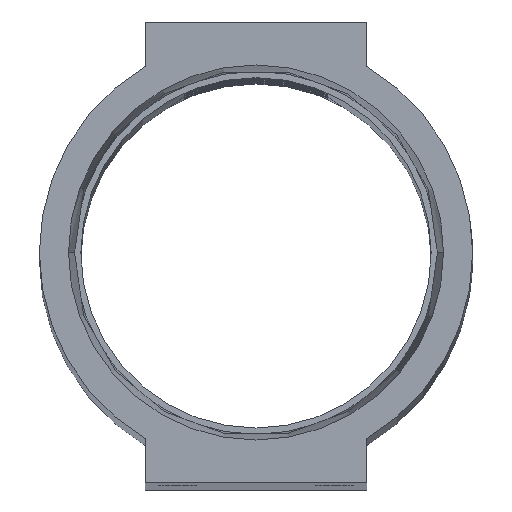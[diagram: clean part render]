
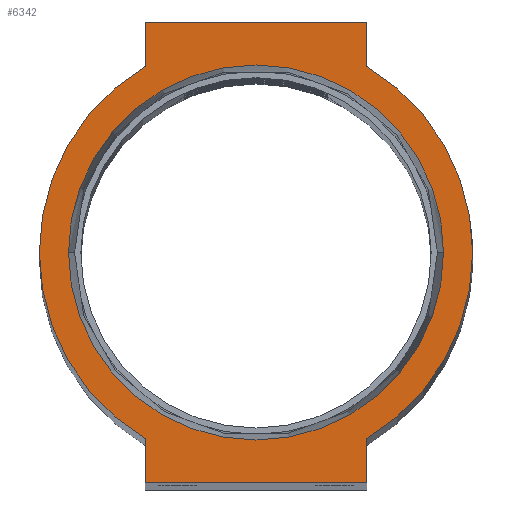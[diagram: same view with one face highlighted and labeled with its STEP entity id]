
A CAD part, top view. The second image highlights one B-rep face of the part: STEP entity #6342.
In plain terms, the highlighted planar face has unit normal (0, 0, 1).
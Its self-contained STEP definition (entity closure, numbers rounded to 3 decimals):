
#250 = VERTEX_POINT ( 'NONE', #13438 ) ;
#269 = DIRECTION ( 'NONE',  ( 0., 0., 1. ) ) ;
#314 = DIRECTION ( 'NONE',  ( 0., 0., 1. ) ) ;
#390 = VECTOR ( 'NONE', #11255, 1000. ) ;
#403 = ORIENTED_EDGE ( 'NONE', *, *, #12629, .T. ) ;
#528 = CARTESIAN_POINT ( 'NONE',  ( 0., 0., 0. ) ) ;
#620 = VERTEX_POINT ( 'NONE', #11128 ) ;
#642 = ORIENTED_EDGE ( 'NONE', *, *, #6323, .T. ) ;
#645 = AXIS2_PLACEMENT_3D ( 'NONE', #1324, #314, #3427 ) ;
#758 = EDGE_LOOP ( 'NONE', ( #3067, #12152 ) ) ;
#921 = EDGE_CURVE ( 'NONE', #7269, #10472, #8382, .T. ) ;
#1101 = CARTESIAN_POINT ( 'NONE',  ( -20.34, 0., 0. ) ) ;
#1117 = CIRCLE ( 'NONE', #6517, 23.5 ) ;
#1262 = ORIENTED_EDGE ( 'NONE', *, *, #10043, .T. ) ;
#1324 = CARTESIAN_POINT ( 'NONE',  ( 0., 0., 0. ) ) ;
#1540 = CIRCLE ( 'NONE', #2907, 20.34 ) ;
#1561 = CARTESIAN_POINT ( 'NONE',  ( 12., -25., 0. ) ) ;
#1789 = VERTEX_POINT ( 'NONE', #8713 ) ;
#2010 = LINE ( 'NONE', #12510, #2708 ) ;
#2275 = LINE ( 'NONE', #2403, #5267 ) ;
#2403 = CARTESIAN_POINT ( 'NONE',  ( -12., -25., 0. ) ) ;
#2708 = VECTOR ( 'NONE', #5935, 1000. ) ;
#2907 = AXIS2_PLACEMENT_3D ( 'NONE', #6812, #269, #5819 ) ;
#3067 = ORIENTED_EDGE ( 'NONE', *, *, #921, .F. ) ;
#3427 = DIRECTION ( 'NONE',  ( 1., 0., 0. ) ) ;
#3584 = LINE ( 'NONE', #8859, #390 ) ;
#3632 = DIRECTION ( 'NONE',  ( 0., 1., 0. ) ) ;
#3691 = FACE_BOUND ( 'NONE', #758, .T. ) ;
#3824 = CARTESIAN_POINT ( 'NONE',  ( -12., -20.205, 0. ) ) ;
#3856 = DIRECTION ( 'NONE',  ( 0., 0., 1. ) ) ;
#3910 = LINE ( 'NONE', #13657, #8873 ) ;
#4208 = ORIENTED_EDGE ( 'NONE', *, *, #10770, .T. ) ;
#4457 = VECTOR ( 'NONE', #3632, 1000. ) ;
#4595 = DIRECTION ( 'NONE',  ( 0., 0., 1. ) ) ;
#4624 = DIRECTION ( 'NONE',  ( 0., 0., 1. ) ) ;
#4725 = CARTESIAN_POINT ( 'NONE',  ( 0., 0., 0. ) ) ;
#4745 = EDGE_CURVE ( 'NONE', #13697, #12866, #8692, .T. ) ;
#5267 = VECTOR ( 'NONE', #8857, 1000. ) ;
#5288 = AXIS2_PLACEMENT_3D ( 'NONE', #12109, #4624, #10975 ) ;
#5297 = VECTOR ( 'NONE', #13366, 1000. ) ;
#5553 = ORIENTED_EDGE ( 'NONE', *, *, #13573, .T. ) ;
#5801 = LINE ( 'NONE', #11014, #4457 ) ;
#5819 = DIRECTION ( 'NONE',  ( 1., 0., 0. ) ) ;
#5935 = DIRECTION ( 'NONE',  ( 0., 1., 0. ) ) ;
#6323 = EDGE_CURVE ( 'NONE', #10084, #13697, #5801, .T. ) ;
#6342 = ADVANCED_FACE ( 'NONE', ( #3691, #8009 ), #13086, .T. ) ;
#6517 = AXIS2_PLACEMENT_3D ( 'NONE', #528, #4595, #13221 ) ;
#6812 = CARTESIAN_POINT ( 'NONE',  ( 0., 0., 0. ) ) ;
#6923 = DIRECTION ( 'NONE',  ( 1., 0., 0. ) ) ;
#7016 = LINE ( 'NONE', #13296, #5297 ) ;
#7169 = EDGE_CURVE ( 'NONE', #250, #9650, #1117, .T. ) ;
#7269 = VERTEX_POINT ( 'NONE', #9927 ) ;
#7468 = CARTESIAN_POINT ( 'NONE',  ( 23.5, 0., 0. ) ) ;
#7643 = ORIENTED_EDGE ( 'NONE', *, *, #11207, .T. ) ;
#7987 = DIRECTION ( 'NONE',  ( 0., 0., 1. ) ) ;
#8009 = FACE_OUTER_BOUND ( 'NONE', #11854, .T. ) ;
#8382 = CIRCLE ( 'NONE', #11556, 20.34 ) ;
#8692 = CIRCLE ( 'NONE', #9564, 23.5 ) ;
#8713 = CARTESIAN_POINT ( 'NONE',  ( -12., 25., 0. ) ) ;
#8857 = DIRECTION ( 'NONE',  ( 0., -1., 0. ) ) ;
#8859 = CARTESIAN_POINT ( 'NONE',  ( -12., 25., 0. ) ) ;
#8873 = VECTOR ( 'NONE', #12452, 1000. ) ;
#8978 = EDGE_CURVE ( 'NONE', #12816, #9767, #2010, .T. ) ;
#9207 = CARTESIAN_POINT ( 'NONE',  ( 0., 0., 0. ) ) ;
#9263 = ORIENTED_EDGE ( 'NONE', *, *, #4745, .T. ) ;
#9564 = AXIS2_PLACEMENT_3D ( 'NONE', #4725, #7987, #6923 ) ;
#9650 = VERTEX_POINT ( 'NONE', #3824 ) ;
#9767 = VERTEX_POINT ( 'NONE', #11922 ) ;
#9927 = CARTESIAN_POINT ( 'NONE',  ( 20.34, 0., 0. ) ) ;
#10043 = EDGE_CURVE ( 'NONE', #9650, #620, #2275, .T. ) ;
#10084 = VERTEX_POINT ( 'NONE', #1561 ) ;
#10142 = CARTESIAN_POINT ( 'NONE',  ( 12., -20.205, 0. ) ) ;
#10472 = VERTEX_POINT ( 'NONE', #1101 ) ;
#10660 = CARTESIAN_POINT ( 'NONE',  ( 12., 20.205, 0. ) ) ;
#10770 = EDGE_CURVE ( 'NONE', #12866, #12816, #11134, .T. ) ;
#10975 = DIRECTION ( 'NONE',  ( 1., 0., 0. ) ) ;
#11014 = CARTESIAN_POINT ( 'NONE',  ( 12., -25., 0. ) ) ;
#11128 = CARTESIAN_POINT ( 'NONE',  ( -12., -25., 0. ) ) ;
#11134 = CIRCLE ( 'NONE', #5288, 23.5 ) ;
#11207 = EDGE_CURVE ( 'NONE', #620, #10084, #7016, .T. ) ;
#11255 = DIRECTION ( 'NONE',  ( 0., -1., 0. ) ) ;
#11556 = AXIS2_PLACEMENT_3D ( 'NONE', #9207, #3856, #12679 ) ;
#11854 = EDGE_LOOP ( 'NONE', ( #11961, #5553, #403, #13556, #1262, #7643, #642, #9263, #4208 ) ) ;
#11922 = CARTESIAN_POINT ( 'NONE',  ( 12., 25., 0. ) ) ;
#11961 = ORIENTED_EDGE ( 'NONE', *, *, #8978, .T. ) ;
#12109 = CARTESIAN_POINT ( 'NONE',  ( 0., 0., 0. ) ) ;
#12152 = ORIENTED_EDGE ( 'NONE', *, *, #12614, .F. ) ;
#12452 = DIRECTION ( 'NONE',  ( -1., 0., 0. ) ) ;
#12510 = CARTESIAN_POINT ( 'NONE',  ( 12., 25., 0. ) ) ;
#12614 = EDGE_CURVE ( 'NONE', #10472, #7269, #1540, .T. ) ;
#12629 = EDGE_CURVE ( 'NONE', #1789, #250, #3584, .T. ) ;
#12679 = DIRECTION ( 'NONE',  ( 1., 0., 0. ) ) ;
#12816 = VERTEX_POINT ( 'NONE', #10660 ) ;
#12866 = VERTEX_POINT ( 'NONE', #7468 ) ;
#13086 = PLANE ( 'NONE',  #645 ) ;
#13221 = DIRECTION ( 'NONE',  ( 1., 0., 0. ) ) ;
#13296 = CARTESIAN_POINT ( 'NONE',  ( -12., -25., 0. ) ) ;
#13366 = DIRECTION ( 'NONE',  ( 1., 0., 0. ) ) ;
#13438 = CARTESIAN_POINT ( 'NONE',  ( -12., 20.205, 0. ) ) ;
#13556 = ORIENTED_EDGE ( 'NONE', *, *, #7169, .T. ) ;
#13573 = EDGE_CURVE ( 'NONE', #9767, #1789, #3910, .T. ) ;
#13657 = CARTESIAN_POINT ( 'NONE',  ( -12., 25., 0. ) ) ;
#13697 = VERTEX_POINT ( 'NONE', #10142 ) ;
